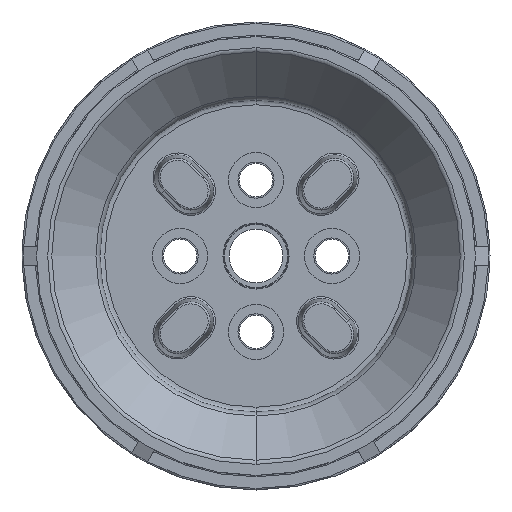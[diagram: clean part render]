
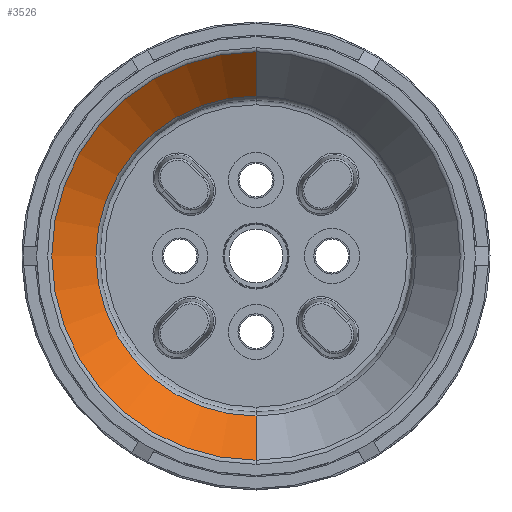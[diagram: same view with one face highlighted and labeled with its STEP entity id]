
A CAD part, front view. The second image highlights one B-rep face of the part: STEP entity #3526.
In plain terms, the highlighted conical face has half-angle 43.45 degrees and reference radius 42.159 mm.
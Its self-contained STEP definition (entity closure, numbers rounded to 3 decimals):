
#5 = ORIENTED_EDGE ( 'NONE', *, *, #3261, .T. ) ;
#81 = DIRECTION ( 'NONE',  ( 0., -0.726, -0.688 ) ) ;
#187 = CARTESIAN_POINT ( 'NONE',  ( 0., -42.643, 0. ) ) ;
#284 = AXIS2_PLACEMENT_3D ( 'NONE', #3897, #12106, #8963 ) ;
#474 = EDGE_CURVE ( 'NONE', #8638, #1591, #3242, .T. ) ;
#1179 = DIRECTION ( 'NONE',  ( 0., 1., 0. ) ) ;
#1220 = CARTESIAN_POINT ( 'NONE',  ( 0., -54.932, 0. ) ) ;
#1345 = VERTEX_POINT ( 'NONE', #11425 ) ;
#1591 = VERTEX_POINT ( 'NONE', #10876 ) ;
#1726 = DIRECTION ( 'NONE',  ( 0., -0.726, 0.688 ) ) ;
#2221 = DIRECTION ( 'NONE',  ( 0., 0., 1. ) ) ;
#2348 = DIRECTION ( 'NONE',  ( 0., 1., 0. ) ) ;
#2834 = EDGE_LOOP ( 'NONE', ( #10937, #5, #9741, #8542 ) ) ;
#3180 = CARTESIAN_POINT ( 'NONE',  ( 0., -42.643, 42.159 ) ) ;
#3242 = LINE ( 'NONE', #12592, #10060 ) ;
#3261 = EDGE_CURVE ( 'NONE', #3810, #1345, #11504, .T. ) ;
#3330 = DIRECTION ( 'NONE',  ( 0., 0., 1. ) ) ;
#3526 = ADVANCED_FACE ( 'NONE', ( #12999 ), #12832, .F. ) ;
#3810 = VERTEX_POINT ( 'NONE', #3180 ) ;
#3897 = CARTESIAN_POINT ( 'NONE',  ( 0., -42.643, 0. ) ) ;
#6252 = EDGE_CURVE ( 'NONE', #1591, #1345, #9989, .T. ) ;
#6622 = VECTOR ( 'NONE', #1726, 1000. ) ;
#7537 = AXIS2_PLACEMENT_3D ( 'NONE', #187, #2348, #2221 ) ;
#8542 = ORIENTED_EDGE ( 'NONE', *, *, #474, .F. ) ;
#8638 = VERTEX_POINT ( 'NONE', #11291 ) ;
#8963 = DIRECTION ( 'NONE',  ( 0., 0., -1. ) ) ;
#9409 = AXIS2_PLACEMENT_3D ( 'NONE', #1220, #1179, #3330 ) ;
#9741 = ORIENTED_EDGE ( 'NONE', *, *, #6252, .F. ) ;
#9924 = CIRCLE ( 'NONE', #7537, 42.159 ) ;
#9989 = CIRCLE ( 'NONE', #9409, 53.8 ) ;
#10060 = VECTOR ( 'NONE', #81, 1000. ) ;
#10876 = CARTESIAN_POINT ( 'NONE',  ( 0., -54.932, -53.8 ) ) ;
#10937 = ORIENTED_EDGE ( 'NONE', *, *, #12448, .T. ) ;
#11291 = CARTESIAN_POINT ( 'NONE',  ( 0., -42.643, -42.159 ) ) ;
#11425 = CARTESIAN_POINT ( 'NONE',  ( 0., -54.932, 53.8 ) ) ;
#11504 = LINE ( 'NONE', #12166, #6622 ) ;
#12106 = DIRECTION ( 'NONE',  ( 0., -1., 0. ) ) ;
#12166 = CARTESIAN_POINT ( 'NONE',  ( 0., -42.643, 42.159 ) ) ;
#12448 = EDGE_CURVE ( 'NONE', #8638, #3810, #9924, .T. ) ;
#12592 = CARTESIAN_POINT ( 'NONE',  ( 0., -42.643, -42.159 ) ) ;
#12832 = CONICAL_SURFACE ( 'NONE', #284, 42.159, 0.758 ) ;
#12999 = FACE_OUTER_BOUND ( 'NONE', #2834, .T. ) ;
